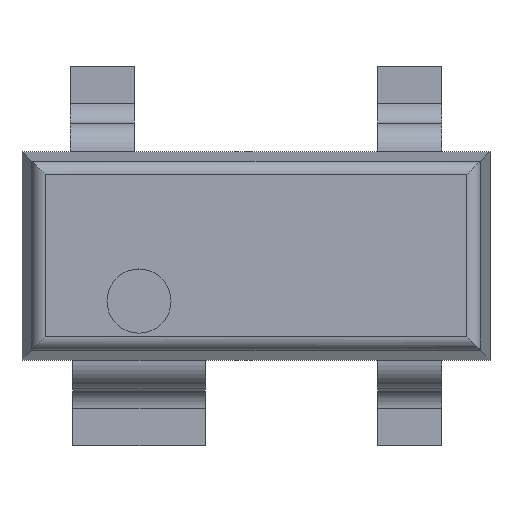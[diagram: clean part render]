
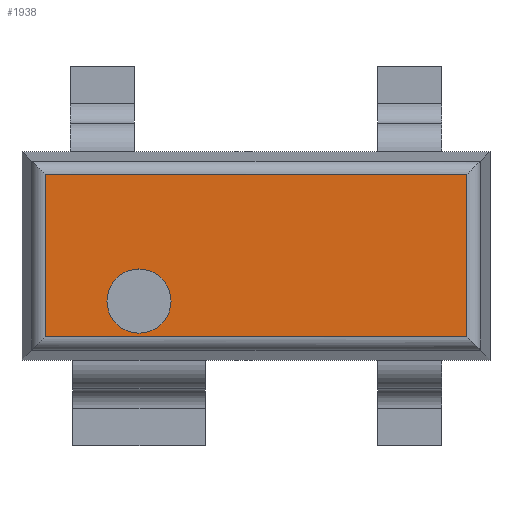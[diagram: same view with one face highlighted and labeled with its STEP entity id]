
A CAD part, top view. The second image highlights one B-rep face of the part: STEP entity #1938.
In plain terms, the highlighted planar face has unit normal (0, 0, 1).
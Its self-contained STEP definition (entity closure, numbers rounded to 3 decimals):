
#1879 = CARTESIAN_POINT ( 'NONE',  ( -0.73, -0.483, 1.22 ) ) ;
#1880 = VERTEX_POINT ( 'NONE', #1879 ) ;
#1881 = CARTESIAN_POINT ( 'NONE',  ( -0.73, -0.083, 1.22 ) ) ;
#1882 = VERTEX_POINT ( 'NONE', #1881 ) ;
#1883 = CARTESIAN_POINT ( 'NONE',  ( -0.73, -0.283, 1.22 ) ) ;
#1884 = DIRECTION ( 'NONE',  ( 0., 0., 1. ) ) ;
#1885 = DIRECTION ( 'NONE',  ( 0., -1., 0. ) ) ;
#1886 = AXIS2_PLACEMENT_3D ( 'NONE', #1883, #1884, #1885 ) ;
#1887 = CIRCLE ( 'NONE', #1886, 0.2) ;
#1888 = EDGE_CURVE ( 'NONE', #1880, #1882, #1887, .T. ) ;
#1889 = ORIENTED_EDGE ( 'NONE', *, *, #1888, .F. ) ;
#1890 = CARTESIAN_POINT ( 'NONE',  ( -0.73, -0.283, 1.22 ) ) ;
#1891 = DIRECTION ( 'NONE',  ( 0., 0., 1. ) ) ;
#1892 = DIRECTION ( 'NONE',  ( 0., -1., 0. ) ) ;
#1893 = AXIS2_PLACEMENT_3D ( 'NONE', #1890, #1891, #1892 ) ;
#1894 = CIRCLE ( 'NONE', #1893, 0.2) ;
#1895 = EDGE_CURVE ( 'NONE', #1882, #1880, #1894, .T. ) ;
#1896 = ORIENTED_EDGE ( 'NONE', *, *, #1895, .F. ) ;
#1897 = EDGE_LOOP ( 'NONE', ( #1889, #1896 ) ) ;
#1898 = FACE_BOUND ( 'NONE', #1897, .T. ) ;
#1899 = CARTESIAN_POINT ( 'NONE',  ( 1.316, -0.506, 1.22 ) ) ;
#1900 = VERTEX_POINT ( 'NONE', #1899 ) ;
#1901 = CARTESIAN_POINT ( 'NONE',  ( 1.316, 0.506, 1.22 ) ) ;
#1902 = VERTEX_POINT ( 'NONE', #1901 ) ;
#1903 = CARTESIAN_POINT ( 'NONE',  ( 1.316, 0.576, 1.22 ) ) ;
#1904 = DIRECTION ( 'NONE',  ( 0., 1., 0. ) ) ;
#1905 = VECTOR ( 'NONE', #1904, 1000. ) ;
#1906 = LINE ( 'NONE', #1903, #1905 ) ;
#1907 = EDGE_CURVE ( 'NONE', #1900, #1902, #1906, .T. ) ;
#1908 = ORIENTED_EDGE ( 'NONE', *, *, #1907, .T. ) ;
#1909 = CARTESIAN_POINT ( 'NONE',  ( -1.316, 0.506, 1.22 ) ) ;
#1910 = VERTEX_POINT ( 'NONE', #1909 ) ;
#1911 = CARTESIAN_POINT ( 'NONE',  ( -1.386, 0.506, 1.22 ) ) ;
#1912 = DIRECTION ( 'NONE',  ( -1., 0., 0. ) ) ;
#1913 = VECTOR ( 'NONE', #1912, 1000. ) ;
#1914 = LINE ( 'NONE', #1911, #1913 ) ;
#1915 = EDGE_CURVE ( 'NONE', #1902, #1910, #1914, .T. ) ;
#1916 = ORIENTED_EDGE ( 'NONE', *, *, #1915, .T. ) ;
#1917 = CARTESIAN_POINT ( 'NONE',  ( -1.316, -0.506, 1.22 ) ) ;
#1918 = VERTEX_POINT ( 'NONE', #1917 ) ;
#1919 = CARTESIAN_POINT ( 'NONE',  ( -1.316, -0.576, 1.22 ) ) ;
#1920 = DIRECTION ( 'NONE',  ( 0., -1., 0. ) ) ;
#1921 = VECTOR ( 'NONE', #1920, 1000. ) ;
#1922 = LINE ( 'NONE', #1919, #1921 ) ;
#1923 = EDGE_CURVE ( 'NONE', #1910, #1918, #1922, .T. ) ;
#1924 = ORIENTED_EDGE ( 'NONE', *, *, #1923, .T. ) ;
#1925 = CARTESIAN_POINT ( 'NONE',  ( 1.386, -0.506, 1.22 ) ) ;
#1926 = DIRECTION ( 'NONE',  ( 1., 0., 0. ) ) ;
#1927 = VECTOR ( 'NONE', #1926, 1000. ) ;
#1928 = LINE ( 'NONE', #1925, #1927 ) ;
#1929 = EDGE_CURVE ( 'NONE', #1918, #1900, #1928, .T. ) ;
#1930 = ORIENTED_EDGE ( 'NONE', *, *, #1929, .T. ) ;
#1931 = EDGE_LOOP ( 'NONE', ( #1908, #1916, #1924, #1930 ) ) ;
#1932 = FACE_OUTER_BOUND ( 'NONE', #1931, .T. ) ;
#1933 = CARTESIAN_POINT ( 'NONE',  ( 0.25, 0.018, 1.22 ) ) ;
#1934 = DIRECTION ( 'NONE',  ( 0., 0., -1. ) ) ;
#1935 = DIRECTION ( 'NONE',  ( 0., 1., 0. ) ) ;
#1936 = AXIS2_PLACEMENT_3D ( 'NONE', #1933, #1934, #1935 ) ;
#1937 = PLANE ( 'NONE', #1936 ) ;
#1938 = ADVANCED_FACE ( 'NONE', ( #1898, #1932 ), #1937, .F. ) ;
